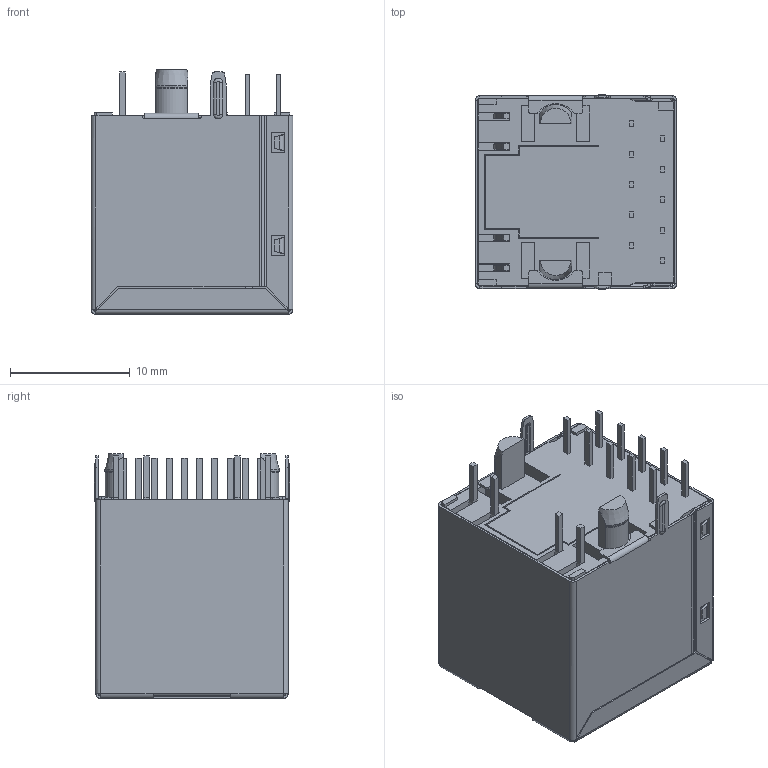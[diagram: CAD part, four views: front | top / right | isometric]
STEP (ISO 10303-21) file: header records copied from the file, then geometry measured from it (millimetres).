
FILE_DESCRIPTION((''),'2;1');
FILE_NAME('DGKYD511B015AA2A8DP','2023-06-29T10:36:16',('Administrator'),(''),'CREO PARAMETRIC BY PTC INC, 2019010','CREO PARAMETRIC BY PTC INC, 2019010','');
FILE_SCHEMA(('CONFIG_CONTROL_DESIGN'));
Length unit declared in the file: millimetre
Products named in the file (1): DGKYD511B015AA2A8DP
Bounding box: 16.85 x 16.3 x 20.45 mm (x, y, z)
Volume: 2720.3 mm3; surface area: 6306.7 mm2
Topology: 19 solids, 19 shells, 909 faces, 2387 edges, 1506 vertices
Faces by surface type: plane 686, cylinder 171, bspline 38, torus 8, sphere 4, cone 2
Entity records: 28562 total; most frequent: CARTESIAN_POINT 6081, ORIENTED_EDGE 4766, DIRECTION 4443, EDGE_CURVE 2383, VECTOR 1945, LINE 1945, VERTEX_POINT 1506, AXIS2_PLACEMENT_3D 1249
